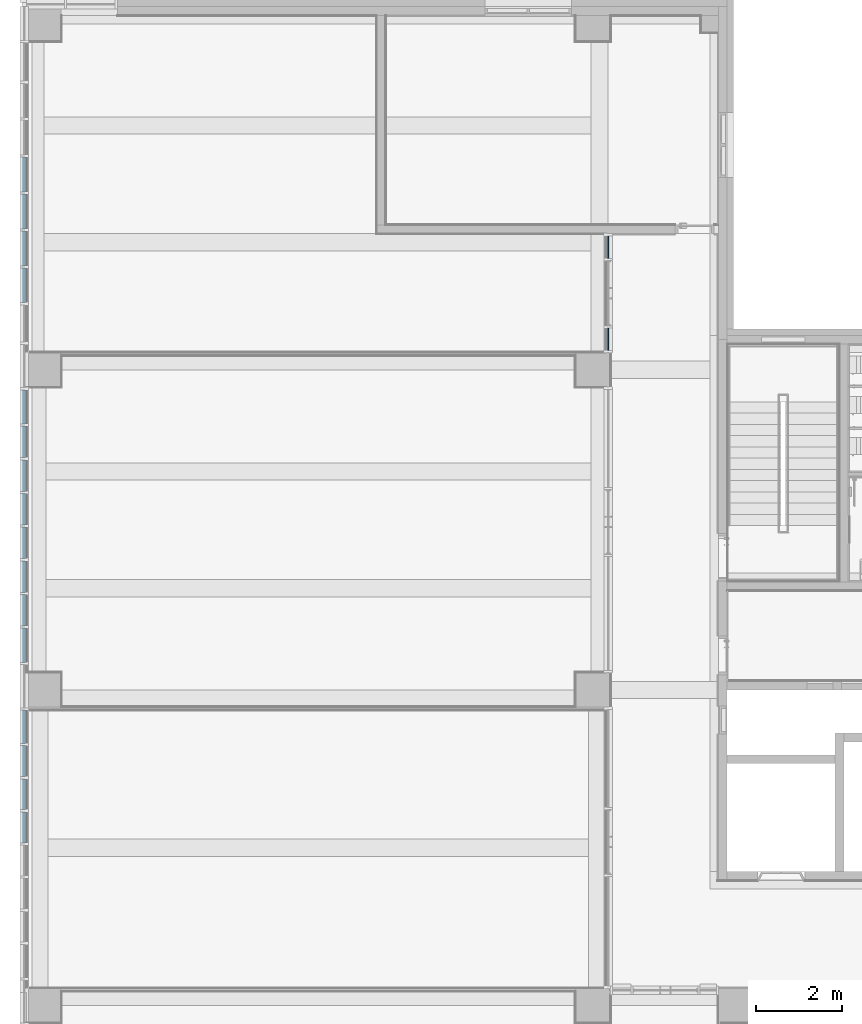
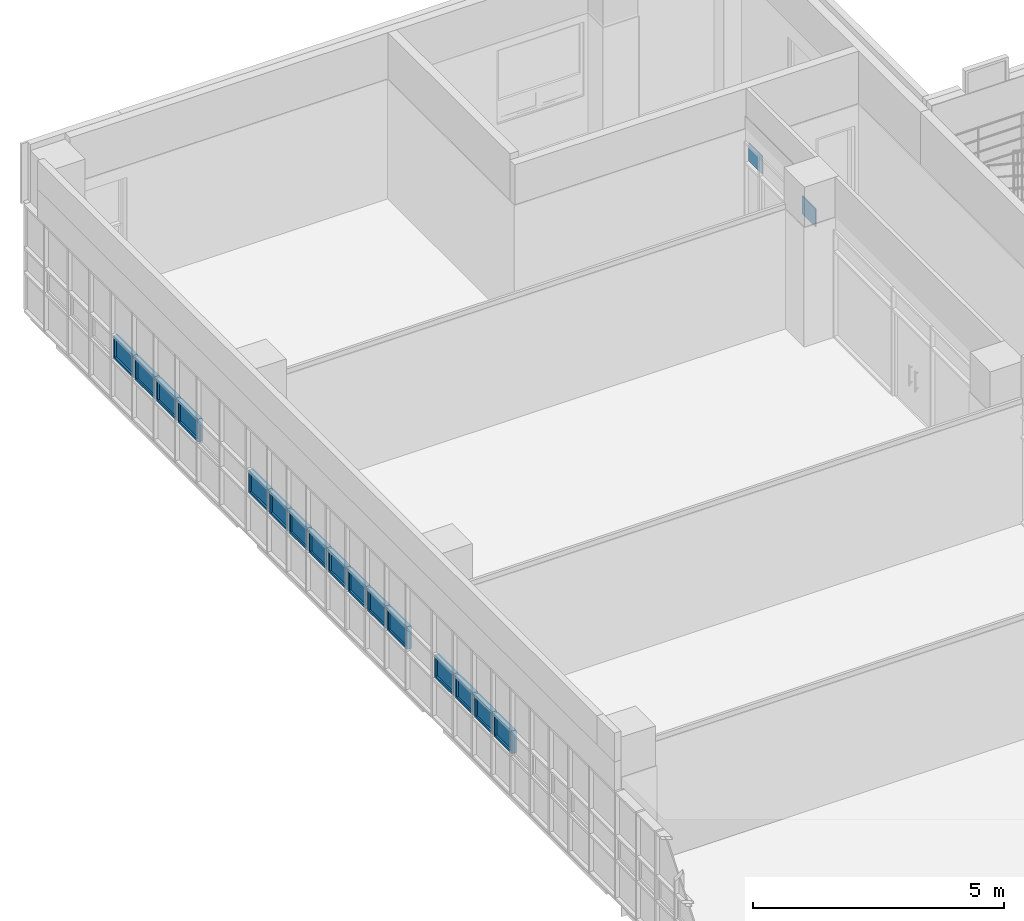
# One storey, part 40 of 76: 18 plates, 2 elements without a shape of their own.
"""IFC2X3 building model written with IfcOpenShell, lengths in millimetres."""

import ifcopenshell
import ifcopenshell.guid

model = None  # the IFC model being written
_history = None  # IfcOwnerHistory: only IFC2X3 demands one
_inside = {}  # id of a spatial element -> (the spatial element, [elements in it])
_under = {}  # id of a project, library or spatial element -> (it, [spatial elements below it])
_declared = {}  # id of a project -> (the project, [libraries it declares])
_typed = {}  # id of a type object -> (the type object, [elements of that type])
_made_of = {}  # id of a material, layer set ... -> (it, [elements and type objects made of it])


def new_model(schema):
    """Start an empty IFC model of exactly this schema.

    Asked for "IFC4X3", IfcOpenShell would pick the latest addendum, in which some entities
    have other attributes; the version numbers below select the first issue.
    IFC2X3 requires an IfcOwnerHistory on every rooted entity: one is made here for all.
    """
    global model, _history
    if schema == "IFC4X3":
        model = ifcopenshell.file(schema_version=(4, 3, 0, 0))
    else:
        model = ifcopenshell.file(schema=schema)
    _inside.clear()
    _under.clear()
    _declared.clear()
    _typed.clear()
    _made_of.clear()
    _history = None
    if model.schema == "IFC2X3":
        org = make("IfcOrganization", Name="unknown")
        user = make(
            "IfcPersonAndOrganization",
            ThePerson=make("IfcPerson", FamilyName="unknown"),
            TheOrganization=org,
        )
        app = make(
            "IfcApplication",
            ApplicationDeveloper=org,
            Version="unknown",
            ApplicationFullName="unknown",
            ApplicationIdentifier="unknown",
        )
        _history = make(
            "IfcOwnerHistory",
            OwningUser=user,
            OwningApplication=app,
            ChangeAction="ADDED",
            CreationDate=0,
        )
    return model


def make(cls, **values):
    """One entity of the class cls with the attributes given. An attribute that is None is left unset."""
    return model.create_entity(
        cls, **{name: value for name, value in values.items() if value is not None}
    )


def entity(cls, *values):
    """Any entity or typed value of the class cls, its attributes in the order of the schema. None: left unset."""
    e = model.create_entity(cls)
    for i, value in enumerate(values):
        if value is not None:
            e[i] = value
    return e


def rooted(cls, **values):
    """An entity with a GlobalId (a new one), such as an element, a storey or a relation."""
    return make(cls, GlobalId=ifcopenshell.guid.new(), OwnerHistory=_history, **values)


def si_unit(unit_type, name, prefix=None):
    """IfcSIUnit, for example si_unit("LENGTHUNIT", "METRE", prefix="MILLI")."""
    return make("IfcSIUnit", UnitType=unit_type, Prefix=prefix, Name=name)


def converted_unit(unit_type, name, factor, base, dimensions=None, offset=None):
    """IfcConversionBasedUnit, such as the inch: factor (a typed value) times the base unit."""
    return make(
        "IfcConversionBasedUnit"
        if offset is None
        else "IfcConversionBasedUnitWithOffset",
        ConversionOffset=offset,
        Dimensions=None
        if dimensions is None
        else entity("IfcDimensionalExponents", *dimensions),
        UnitType=unit_type,
        Name=name,
        ConversionFactor=make(
            "IfcMeasureWithUnit", ValueComponent=factor, UnitComponent=base
        ),
    )


def derived_unit(unit_type, elements):
    """IfcDerivedUnit: a product of units, each with its exponent."""
    return make(
        "IfcDerivedUnit",
        Elements=[
            make("IfcDerivedUnitElement", Unit=unit, Exponent=power)
            for unit, power in elements
        ],
        UnitType=unit_type,
    )


def assignment(units):
    """IfcUnitAssignment: the units of a project."""
    return None if units is None else make("IfcUnitAssignment", Units=units)


def point(xyz):
    """IfcCartesianPoint."""
    return None if xyz is None else make("IfcCartesianPoint", Coordinates=xyz)


def direction(xyz):
    """IfcDirection."""
    return None if xyz is None else make("IfcDirection", DirectionRatios=xyz)


def frame(location, z_axis=None, x_axis=None):
    """IfcAxis2Placement3D, a coordinate frame: its origin and axes. An axis left out is left unset."""
    return make(
        "IfcAxis2Placement3D",
        Location=point(location),
        Axis=direction(z_axis),
        RefDirection=direction(x_axis),
    )


def frame_2d(location, x_axis=None):
    """IfcAxis2Placement2D, a coordinate frame in the plane: its origin and x axis."""
    return make(
        "IfcAxis2Placement2D", Location=point(location), RefDirection=direction(x_axis)
    )


def origin():
    """The frame at (0, 0, 0) with its axes left unset."""
    return frame((0.0, 0.0, 0.0))


def origin_2d_with_axis():
    """The frame at (0, 0) in the plane with the x axis (1, 0) written out."""
    return frame_2d((0.0, 0.0), x_axis=(1.0, 0.0))


def place(relative_to, where):
    """IfcLocalPlacement: puts the frame where relative to a parent placement (None: the world)."""
    return make(
        "IfcLocalPlacement", PlacementRelTo=relative_to, RelativePlacement=where
    )


def context(
    kind, dimensions, precision=None, world=None, true_north=None, identifier=None
):
    """IfcGeometricRepresentationContext, for example the 3D "Model" context."""
    return make(
        "IfcGeometricRepresentationContext",
        ContextIdentifier=identifier,
        ContextType=kind,
        CoordinateSpaceDimension=dimensions,
        Precision=precision,
        WorldCoordinateSystem=world,
        TrueNorth=true_north,
    )


def subcontext(parent, identifier, kind, view, scale=None):
    """IfcGeometricRepresentationSubContext, for example "Body" below "Model"."""
    return make(
        "IfcGeometricRepresentationSubContext",
        ContextIdentifier=identifier,
        ContextType=kind,
        ParentContext=parent,
        TargetScale=scale,
        TargetView=view,
    )


def project(units=None, contexts=None):
    """IfcProject with its units and contexts."""
    return rooted(
        "IfcProject",
        Name="project",
        RepresentationContexts=contexts,
        UnitsInContext=assignment(units),
    )


def spatial(cls, under=None, at=None, **own):
    """A site, building, storey or space (cls), placed at a placement, below another one or the project."""
    s = rooted(cls, ObjectPlacement=at, **own)
    if under is not None:
        _under.setdefault(under.id(), (under, []))[1].append(s)
    return s


def polyline(points):
    """IfcPolyline through the points."""
    return make("IfcPolyline", Points=[point(p) for p in points])


def profile(cls, at=None, kind="AREA", **sizes):
    """A parametric profile (cls). Its sizes go by their IFC names, for example OverallWidth=200.0."""
    return make(cls, ProfileType=kind, Position=at, **sizes)


def rectangle(**sizes):
    """IfcRectangleProfileDef."""
    return profile("IfcRectangleProfileDef", **sizes)


def outline(outer, holes=None, kind="AREA"):
    """IfcArbitraryClosedProfileDef: a profile drawn as a closed curve; with holes, ...WithVoids."""
    if holes is None:
        return make("IfcArbitraryClosedProfileDef", ProfileType=kind, OuterCurve=outer)
    return make(
        "IfcArbitraryProfileDefWithVoids",
        ProfileType=kind,
        OuterCurve=outer,
        InnerCurves=holes,
    )


def extrude(swept, where, along, depth):
    """IfcExtrudedAreaSolid: the profile swept, set in the frame where, extruded along a direction by depth."""
    return make(
        "IfcExtrudedAreaSolid",
        SweptArea=swept,
        Position=where,
        ExtrudedDirection=direction(along),
        Depth=depth,
    )


def shape(context_of_items, identifier, shape_type, items):
    """IfcShapeRepresentation: the items that make up one representation, for example the "Body"."""
    return make(
        "IfcShapeRepresentation",
        ContextOfItems=context_of_items,
        RepresentationIdentifier=identifier,
        RepresentationType=shape_type,
        Items=items,
    )


def source(mapping_origin, context_of_items, identifier, shape_type, items):
    """IfcRepresentationMap: a shape defined once, which mapped items show again and again."""
    return make(
        "IfcRepresentationMap",
        MappingOrigin=mapping_origin,
        MappedRepresentation=shape(context_of_items, identifier, shape_type, items),
    )


def transform(
    local_origin,
    x_axis=None,
    y_axis=None,
    z_axis=None,
    scale=None,
    scale2=None,
    scale3=None,
    uniform=True,
):
    """IfcCartesianTransformationOperator3D, or its non-uniform kind. x_axis, y_axis, z_axis: its Axis1, 2, 3."""
    if uniform:
        return make(
            "IfcCartesianTransformationOperator3D",
            Axis1=direction(x_axis),
            Axis2=direction(y_axis),
            LocalOrigin=point(local_origin),
            Scale=scale,
            Axis3=direction(z_axis),
        )
    return make(
        "IfcCartesianTransformationOperator3DnonUniform",
        Axis1=direction(x_axis),
        Axis2=direction(y_axis),
        LocalOrigin=point(local_origin),
        Scale=scale,
        Axis3=direction(z_axis),
        Scale2=scale2,
        Scale3=scale3,
    )


def mapped(mapping_source, mapping_target):
    """IfcMappedItem: shows the shape of a source again, moved by a transform."""
    return make(
        "IfcMappedItem", MappingSource=mapping_source, MappingTarget=mapping_target
    )


def material(Name=None, Category=None):
    """IfcMaterial."""
    return make("IfcMaterial", Name=Name, Category=Category)


def material_list(materials):
    """IfcMaterialList."""
    return make("IfcMaterialList", Materials=materials)


def made_of(thing, what):
    """Note that an element or type object is made of a material, layer set ...; save() writes the relation."""
    if what is not None:
        _made_of.setdefault(what.id(), (what, []))[1].append(thing)
    return thing


def type_object(cls, material=None, **own):
    """A type object (cls), such as IfcWallType, which elements share."""
    return made_of(rooted(cls, **own), material)


def type_shapes(of_type, sources):
    """Give a type object the sources (RepresentationMaps) that its elements show as mapped items."""
    of_type.RepresentationMaps = sources


def element(
    cls,
    number,
    at=None,
    inside=None,
    cuts=None,
    type_object=None,
    material=None,
    context=None,
    identifier="Body",
    shape_type=None,
    held_by="IfcProductDefinitionShape",
    body=None,
    shapes=None,
    **own,
):
    """One element of the class cls, such as IfcWall. Its Tag is "e" and its number.

    at: its placement. inside: the storey or other place that contains it. cuts: it is an
    opening in that element (IfcRelVoidsElement). A single representation is given by context,
    identifier, shape_type and body (its items); several are given by shapes. held_by: the class
    of the entity that holds the representations. save() writes the other relations.
    """
    e = rooted(cls, Tag="e%d" % number, ObjectPlacement=at, **own)
    if body is not None:
        shapes = [shape(context, identifier, shape_type, body)]
    if shapes is not None:
        e.Representation = make(held_by, Representations=shapes)
    if inside is not None:
        _inside.setdefault(inside.id(), (inside, []))[1].append(e)
    if cuts is not None:
        rooted(
            "IfcRelVoidsElement", RelatingBuildingElement=cuts, RelatedOpeningElement=e
        )
    if type_object is not None:
        _typed.setdefault(type_object.id(), (type_object, []))[1].append(e)
    return made_of(e, material)


def aggregate(whole, parts):
    """IfcRelAggregates: a whole, such as a stair, and the parts it consists of."""
    return rooted("IfcRelAggregates", RelatingObject=whole, RelatedObjects=parts)


def save(model, path):
    """Write the relations noted so far, then the file.

    IfcRelAggregates (storeys below a building ...), IfcRelContainedInSpatialStructure (elements
    in a storey), IfcRelDefinesByType, IfcRelAssociatesMaterial and IfcRelDeclares: one each for
    every whole, place, type object, material and project.
    """
    for whole, parts in _under.values():
        aggregate(whole, parts)
    for where, things in _inside.values():
        rooted(
            "IfcRelContainedInSpatialStructure",
            RelatedElements=things,
            RelatingStructure=where,
        )
    for kind, things in _typed.values():
        rooted("IfcRelDefinesByType", RelatedObjects=things, RelatingType=kind)
    for what, things in _made_of.values():
        rooted("IfcRelAssociatesMaterial", RelatedObjects=things, RelatingMaterial=what)
    for by, libraries in _declared.values():
        rooted("IfcRelDeclares", RelatingContext=by, RelatedDefinitions=libraries)
    model.write(path)


model = new_model("IFC2X3")

# Units and contexts
model_context = context("Model", 3, precision=0.01, world=origin(), true_north=direction((6.123031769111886e-17, 1.0)))
body_context = subcontext(model_context, "Body", "Model", "MODEL_VIEW")
ifc_project = project(units=[si_unit("LENGTHUNIT", "METRE", prefix="MILLI"), si_unit("AREAUNIT", "SQUARE_METRE"), si_unit("VOLUMEUNIT", "CUBIC_METRE"), converted_unit("PLANEANGLEUNIT", "DEGREE", entity("IfcRatioMeasure", 0.017453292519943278), si_unit("PLANEANGLEUNIT", "RADIAN"), dimensions=[0, 0, 0, 0, 0, 0, 0]), si_unit("MASSUNIT", "GRAM", prefix="KILO"), derived_unit("MASSDENSITYUNIT", [(si_unit("MASSUNIT", "GRAM", prefix="KILO"), 1), (si_unit("LENGTHUNIT", "METRE"), -3)]), derived_unit("MOMENTOFINERTIAUNIT", [(si_unit("LENGTHUNIT", "METRE"), 4)]), si_unit("TIMEUNIT", "SECOND"), si_unit("FREQUENCYUNIT", "HERTZ"), si_unit("THERMODYNAMICTEMPERATUREUNIT", "DEGREE_CELSIUS"), derived_unit("THERMALTRANSMITTANCEUNIT", [(si_unit("MASSUNIT", "GRAM", prefix="KILO"), 1), (si_unit("THERMODYNAMICTEMPERATUREUNIT", "KELVIN"), -1), (si_unit("TIMEUNIT", "SECOND"), -3)]), derived_unit("VOLUMETRICFLOWRATEUNIT", [(si_unit("LENGTHUNIT", "METRE"), 3), (si_unit("TIMEUNIT", "SECOND"), -1)]), derived_unit("MASSFLOWRATEUNIT", [(si_unit("MASSUNIT", "GRAM", prefix="KILO"), 1), (si_unit("TIMEUNIT", "SECOND"), -1)]), derived_unit("ROTATIONALFREQUENCYUNIT", [(si_unit("TIMEUNIT", "SECOND"), -1)]), si_unit("ELECTRICCURRENTUNIT", "AMPERE"), si_unit("ELECTRICVOLTAGEUNIT", "VOLT"), si_unit("POWERUNIT", "WATT"), si_unit("FORCEUNIT", "NEWTON", prefix="KILO"), si_unit("ILLUMINANCEUNIT", "LUX"), si_unit("LUMINOUSFLUXUNIT", "LUMEN"), si_unit("LUMINOUSINTENSITYUNIT", "CANDELA"), derived_unit("USERDEFINED", [(si_unit("MASSUNIT", "GRAM", prefix="KILO"), -1), (si_unit("LENGTHUNIT", "METRE"), -2), (si_unit("TIMEUNIT", "SECOND"), 3), (si_unit("LUMINOUSFLUXUNIT", "LUMEN"), 1)]), derived_unit("SOUNDPOWERUNIT", [(si_unit("MASSUNIT", "GRAM", prefix="KILO"), 1), (si_unit("LENGTHUNIT", "METRE"), 2), (si_unit("TIMEUNIT", "SECOND"), -3)]), derived_unit("SOUNDPRESSUREUNIT", [(si_unit("MASSUNIT", "GRAM", prefix="KILO"), 1), (si_unit("LENGTHUNIT", "METRE"), -1), (si_unit("TIMEUNIT", "SECOND"), -2)]), derived_unit("LINEARVELOCITYUNIT", [(si_unit("LENGTHUNIT", "METRE"), 1), (si_unit("TIMEUNIT", "SECOND"), -1)]), si_unit("PRESSUREUNIT", "PASCAL"), derived_unit("USERDEFINED", [(si_unit("LENGTHUNIT", "METRE"), -2), (si_unit("MASSUNIT", "GRAM", prefix="KILO"), 1), (si_unit("TIMEUNIT", "SECOND"), -2)]), derived_unit("LINEARFORCEUNIT", [(si_unit("MASSUNIT", "GRAM", prefix="KILO"), 1), (si_unit("LENGTHUNIT", "METRE"), 1), (si_unit("TIMEUNIT", "SECOND"), -2), (si_unit("LENGTHUNIT", "METRE"), -1)]), derived_unit("PLANARFORCEUNIT", [(si_unit("MASSUNIT", "GRAM", prefix="KILO"), 1), (si_unit("LENGTHUNIT", "METRE"), 1), (si_unit("TIMEUNIT", "SECOND"), -2), (si_unit("LENGTHUNIT", "METRE"), -2)])], contexts=[model_context])

# Site, building, storey
site_placement = place(None, frame((-14167.972527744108, -657.2125860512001, 0.0)))
site = spatial("IfcSite", under=ifc_project, at=site_placement, Name="Default", CompositionType="ELEMENT")
building_placement = place(site_placement, origin())
building = spatial("IfcBuilding", under=site, at=building_placement, Name="Sample Building", CompositionType="ELEMENT")
storey_placement = place(building_placement, frame((0.0, 0.0, 9300.0)))
storey = spatial("IfcBuildingStorey", under=building, at=storey_placement, Name="지상 3층", CompositionType="ELEMENT", Elevation=9300.000000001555)

# Curtain wall, plates
curtain_wall_type = type_object("IfcCurtainWallType", Name="커튼월:CW112-스테인리스 스틸 커튼월", PredefinedType="NOTDEFINED")
curtain_wall_1_placement = place(storey_placement, frame((0.0, 0.0, -9300.0)))
curtain_wall_1 = element("IfcCurtainWall", 1, at=curtain_wall_1_placement, inside=storey, type_object=curtain_wall_type, Name="커튼월:CW112-스테인리스 스틸 커튼월", ObjectType="커튼월:CW112-스테인리스 스틸 커튼월")
ifc_material_1 = material(Name="KBIMS-로이유리(코팅)")
plate_type_1 = type_object("IfcPlateType", Name="CW300-THK24.Low-e coating glass:CW300-THK24.Low-e coating glass", PredefinedType="CURTAIN_PANEL", material=ifc_material_1)
shared_shape_1 = source(origin(), body_context, "Body", "SweptSolid", [
    extrude(rectangle(XDim=524.9999999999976, YDim=24.000000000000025, at=origin_2d_with_axis()), frame((0.0, 0.0, 0.0), z_axis=(0.0, 0.0, 1.0), x_axis=(-1.0, 0.0, 0.0)), (0.0, 0.0, 1.0), 445.00000000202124),
])
type_shapes(plate_type_1, [shared_shape_1])
plate_1_placement = place(curtain_wall_1_placement, frame((27522.955105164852, 30194.712275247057, 11505.0), z_axis=(0.0, 0.0, 1.0), x_axis=(0.0, -1.0, 0.0)))
plate_1 = element("IfcPlate", 2, at=plate_1_placement, type_object=plate_type_1, material=ifc_material_1, Name="CW300-THK24.Low-e coating glass:CW300-THK24.Low-e coating glass", ObjectType="CW300-THK24.Low-e coating glass:CW300-THK24.Low-e coating glass", context=body_context, shape_type="MappedRepresentation", body=[
    mapped(shared_shape_1, transform((0.0, 0.0, 0.0), scale=1.0)),
])
plate_type_2 = type_object("IfcPlateType", Name="CW300-THK24.Low-e coating glass:CW300-THK24.Low-e coating glass", PredefinedType="CURTAIN_PANEL", material=ifc_material_1)
shared_shape_2 = source(origin(), body_context, "Body", "SweptSolid", [
    extrude(rectangle(XDim=520.0002780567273, YDim=24.000000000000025, at=origin_2d_with_axis()), frame((0.0, 0.0, 0.0), z_axis=(0.0, 0.0, 1.0), x_axis=(-1.0, 0.0, 0.0)), (0.0, 0.0, 1.0), 445.00000000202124),
])
type_shapes(plate_type_2, [shared_shape_2])
plate_2_placement = place(curtain_wall_1_placement, frame((27522.955105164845, 28067.212447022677, 11505.0), z_axis=(0.0, 0.0, 1.0), x_axis=(0.0, -1.0, 0.0)))
plate_2 = element("IfcPlate", 3, at=plate_2_placement, type_object=plate_type_2, material=ifc_material_1, Name="CW300-THK24.Low-e coating glass:CW300-THK24.Low-e coating glass", ObjectType="CW300-THK24.Low-e coating glass:CW300-THK24.Low-e coating glass", context=body_context, shape_type="MappedRepresentation", body=[
    mapped(shared_shape_2, transform((0.0, 0.0, 0.0), scale=1.0)),
])
aggregate(curtain_wall_1, [plate_1, plate_2])

curtain_wall_2_placement = place(storey_placement, frame((0.0, 0.0, -9300.0)))
curtain_wall_2 = element("IfcCurtainWall", 4, at=curtain_wall_2_placement, inside=storey, type_object=curtain_wall_type, Name="커튼월:CW112-스테인리스 스틸 커튼월", ObjectType="커튼월:CW112-스테인리스 스틸 커튼월")
ifc_material_2 = material(Name="KBIMS-유리")
ifc_material_3 = material(Name="KBIMS-알루미늄")
ifc_material_list_1 = material_list([ifc_material_2, ifc_material_3])
ifc_material_list_2 = material_list([ifc_material_2, ifc_material_3])
plate_type_3 = type_object("IfcPlateType", Name="CW410-프로젝트 창:CW410-프로젝트 창 (하부개폐)", PredefinedType="CURTAIN_PANEL", material=ifc_material_list_2)
shared_shape_3 = source(origin(), body_context, "Body", "SweptSolid", [
    extrude(rectangle(XDim=704.0000000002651, YDim=23.999999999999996, at=origin_2d_with_axis()), frame((0.0, -0.04999999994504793, 50.0), z_axis=(0.0, 0.0, 1.0), x_axis=(-1.0, 0.0, 0.0)), (0.0, 0.0, 1.0), 450.0000000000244),
    extrude(outline(polyline([(-402.0, -275.0), (402.0, -275.0), (402.0, 275.0), (-402.0, 275.0), (-402.0, -275.0)]), holes=[polyline([(-352.0, -225.0), (-352.0, 225.0), (352.0, 225.0), (352.0, -225.0), (-352.0, -225.0)])]), frame((0.0, -50.04999999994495, 275.0), z_axis=(0.0, 1.0, 0.0), x_axis=(1.0, 0.0, 0.0)), (0.0, 0.0, 1.0), 99.99999999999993),
])
type_shapes(plate_type_3, [shared_shape_3])
plate_3_placement = place(curtain_wall_2_placement, frame((14018.587904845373, 31874.81770709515, 10355.0), z_axis=(0.0, 0.0, 1.0), x_axis=(0.0, -1.0, 0.0)))
plate_3 = element("IfcPlate", 5, at=plate_3_placement, type_object=plate_type_3, material=ifc_material_list_1, Name="CW410-프로젝트 창:CW410-프로젝트 창 (하부개폐)", ObjectType="CW410-프로젝트 창:CW410-프로젝트 창 (하부개폐)", context=body_context, shape_type="MappedRepresentation", body=[
    mapped(shared_shape_3, transform((0.0, 0.0, 0.0), scale=1.0)),
])
ifc_material_list_3 = material_list([ifc_material_2, ifc_material_3])
plate_4_placement = place(curtain_wall_2_placement, frame((14018.587904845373, 31020.817707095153, 10355.0), z_axis=(0.0, 0.0, 1.0), x_axis=(0.0, -1.0, 0.0)))
plate_4 = element("IfcPlate", 6, at=plate_4_placement, type_object=plate_type_3, material=ifc_material_list_3, Name="CW410-프로젝트 창:CW410-프로젝트 창 (하부개폐)", ObjectType="CW410-프로젝트 창:CW410-프로젝트 창 (하부개폐)", context=body_context, shape_type="MappedRepresentation", body=[
    mapped(shared_shape_3, transform((0.0, 0.0, 0.0), scale=1.0)),
])
ifc_material_list_4 = material_list([ifc_material_2, ifc_material_3])
plate_5_placement = place(curtain_wall_2_placement, frame((14018.587904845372, 30166.81770709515, 10355.0), z_axis=(0.0, 0.0, 1.0), x_axis=(0.0, -1.0, 0.0)))
plate_5 = element("IfcPlate", 7, at=plate_5_placement, type_object=plate_type_3, material=ifc_material_list_4, Name="CW410-프로젝트 창:CW410-프로젝트 창 (하부개폐)", ObjectType="CW410-프로젝트 창:CW410-프로젝트 창 (하부개폐)", context=body_context, shape_type="MappedRepresentation", body=[
    mapped(shared_shape_3, transform((0.0, 0.0, 0.0), scale=1.0)),
])
ifc_material_list_5 = material_list([ifc_material_2, ifc_material_3])
plate_6_placement = place(curtain_wall_2_placement, frame((14018.587904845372, 29312.817707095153, 10355.0), z_axis=(0.0, 0.0, 1.0), x_axis=(0.0, -1.0, 0.0)))
plate_6 = element("IfcPlate", 8, at=plate_6_placement, type_object=plate_type_3, material=ifc_material_list_5, Name="CW410-프로젝트 창:CW410-프로젝트 창 (하부개폐)", ObjectType="CW410-프로젝트 창:CW410-프로젝트 창 (하부개폐)", context=body_context, shape_type="MappedRepresentation", body=[
    mapped(shared_shape_3, transform((0.0, 0.0, 0.0), scale=1.0)),
])
ifc_material_list_6 = material_list([ifc_material_2, ifc_material_3])
ifc_material_list_7 = material_list([ifc_material_2, ifc_material_3])
plate_type_4 = type_object("IfcPlateType", Name="CW410-프로젝트 창:CW410-프로젝트 창 (하부개폐)", PredefinedType="CURTAIN_PANEL", material=ifc_material_list_7)
shared_shape_4 = source(origin(), body_context, "Body", "SweptSolid", [
    extrude(rectangle(XDim=689.0000000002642, YDim=23.999999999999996, at=origin_2d_with_axis()), frame((0.0, -0.04999999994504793, 50.0), z_axis=(0.0, 0.0, 1.0), x_axis=(-1.0, 0.0, 0.0)), (0.0, 0.0, 1.0), 450.0000000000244),
    extrude(outline(polyline([(-394.5000000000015, -275.0), (394.5000000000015, -275.0), (394.5000000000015, 275.0), (-394.5000000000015, 275.0), (-394.5000000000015, -275.0)]), holes=[polyline([(-344.5000000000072, -225.0), (-344.5000000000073, 225.0), (344.5000000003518, 225.0), (344.5000000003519, -225.0), (-344.5000000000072, -225.0)])]), frame((0.0, -50.04999999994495, 275.0), z_axis=(0.0, 1.0, 0.0), x_axis=(1.0, 0.0, 0.0)), (0.0, 0.0, 1.0), 99.99999999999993),
])
type_shapes(plate_type_4, [shared_shape_4])
plate_7_placement = place(curtain_wall_2_placement, frame((14018.587904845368, 26502.31770709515, 10355.0), z_axis=(0.0, 0.0, 1.0), x_axis=(0.0, -1.0, 0.0)))
plate_7 = element("IfcPlate", 9, at=plate_7_placement, type_object=plate_type_4, material=ifc_material_list_6, Name="CW410-프로젝트 창:CW410-프로젝트 창 (하부개폐)", ObjectType="CW410-프로젝트 창:CW410-프로젝트 창 (하부개폐)", context=body_context, shape_type="MappedRepresentation", body=[
    mapped(shared_shape_4, transform((0.0, 0.0, 0.0), scale=1.0)),
])
ifc_material_list_8 = material_list([ifc_material_2, ifc_material_3])
plate_8_placement = place(curtain_wall_2_placement, frame((14018.587904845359, 20989.317707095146, 10355.0), z_axis=(0.0, 0.0, 1.0), x_axis=(0.0, -1.0, 0.0)))
plate_8 = element("IfcPlate", 10, at=plate_8_placement, type_object=plate_type_4, material=ifc_material_list_8, Name="CW410-프로젝트 창:CW410-프로젝트 창 (하부개폐)", ObjectType="CW410-프로젝트 창:CW410-프로젝트 창 (하부개폐)", context=body_context, shape_type="MappedRepresentation", body=[
    mapped(shared_shape_4, transform((0.0, 0.0, 0.0), scale=1.0)),
])
ifc_material_list_9 = material_list([ifc_material_2, ifc_material_3])
ifc_material_list_10 = material_list([ifc_material_2, ifc_material_3])
plate_type_5 = type_object("IfcPlateType", Name="CW410-프로젝트 창:CW410-프로젝트 창 (하부개폐)", PredefinedType="CURTAIN_PANEL", material=ifc_material_list_10)
shared_shape_5 = source(origin(), body_context, "Body", "SweptSolid", [
    extrude(rectangle(XDim=629.0000000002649, YDim=23.999999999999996, at=origin_2d_with_axis()), frame((0.0, -0.04999999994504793, 50.0), z_axis=(0.0, 0.0, 1.0), x_axis=(-1.0, 0.0, 0.0)), (0.0, 0.0, 1.0), 450.0000000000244),
    extrude(outline(polyline([(-364.5000000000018, -275.0), (364.5000000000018, -275.0), (364.5000000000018, 275.0), (-364.5000000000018, 275.0), (-364.5000000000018, -275.0)]), holes=[polyline([(-314.50000000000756, -225.0), (-314.5000000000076, 225.0), (314.5000000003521, 225.0), (314.50000000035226, -225.0), (-314.50000000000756, -225.0)])]), frame((0.0, -50.04999999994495, 275.0), z_axis=(0.0, 1.0, 0.0), x_axis=(1.0, 0.0, 0.0)), (0.0, 0.0, 1.0), 99.99999999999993),
])
type_shapes(plate_type_5, [shared_shape_5])
plate_9_placement = place(curtain_wall_2_placement, frame((14018.587904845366, 25693.317707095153, 10355.0), z_axis=(0.0, 0.0, 1.0), x_axis=(0.0, -1.0, 0.0)))
plate_9 = element("IfcPlate", 11, at=plate_9_placement, type_object=plate_type_5, material=ifc_material_list_9, Name="CW410-프로젝트 창:CW410-프로젝트 창 (하부개폐)", ObjectType="CW410-프로젝트 창:CW410-프로젝트 창 (하부개폐)", context=body_context, shape_type="MappedRepresentation", body=[
    mapped(shared_shape_5, transform((0.0, 0.0, 0.0), scale=1.0)),
])
ifc_material_list_11 = material_list([ifc_material_2, ifc_material_3])
plate_10_placement = place(curtain_wall_2_placement, frame((14018.587904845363, 24914.317707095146, 10355.0), z_axis=(0.0, 0.0, 1.0), x_axis=(0.0, -1.0, 0.0)))
plate_10 = element("IfcPlate", 12, at=plate_10_placement, type_object=plate_type_5, material=ifc_material_list_11, Name="CW410-프로젝트 창:CW410-프로젝트 창 (하부개폐)", ObjectType="CW410-프로젝트 창:CW410-프로젝트 창 (하부개폐)", context=body_context, shape_type="MappedRepresentation", body=[
    mapped(shared_shape_5, transform((0.0, 0.0, 0.0), scale=1.0)),
])
ifc_material_list_12 = material_list([ifc_material_2, ifc_material_3])
plate_11_placement = place(curtain_wall_2_placement, frame((14018.587904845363, 24135.31770709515, 10355.0), z_axis=(0.0, 0.0, 1.0), x_axis=(0.0, -1.0, 0.0)))
plate_11 = element("IfcPlate", 13, at=plate_11_placement, type_object=plate_type_5, material=ifc_material_list_12, Name="CW410-프로젝트 창:CW410-프로젝트 창 (하부개폐)", ObjectType="CW410-프로젝트 창:CW410-프로젝트 창 (하부개폐)", context=body_context, shape_type="MappedRepresentation", body=[
    mapped(shared_shape_5, transform((0.0, 0.0, 0.0), scale=1.0)),
])
ifc_material_list_13 = material_list([ifc_material_2, ifc_material_3])
plate_12_placement = place(curtain_wall_2_placement, frame((14018.58790484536, 23356.317707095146, 10355.0), z_axis=(0.0, 0.0, 1.0), x_axis=(0.0, -1.0, 0.0)))
plate_12 = element("IfcPlate", 14, at=plate_12_placement, type_object=plate_type_5, material=ifc_material_list_13, Name="CW410-프로젝트 창:CW410-프로젝트 창 (하부개폐)", ObjectType="CW410-프로젝트 창:CW410-프로젝트 창 (하부개폐)", context=body_context, shape_type="MappedRepresentation", body=[
    mapped(shared_shape_5, transform((0.0, 0.0, 0.0), scale=1.0)),
])
ifc_material_list_14 = material_list([ifc_material_2, ifc_material_3])
plate_13_placement = place(curtain_wall_2_placement, frame((14018.58790484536, 22577.31770709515, 10355.0), z_axis=(0.0, 0.0, 1.0), x_axis=(0.0, -1.0, 0.0)))
plate_13 = element("IfcPlate", 15, at=plate_13_placement, type_object=plate_type_5, material=ifc_material_list_14, Name="CW410-프로젝트 창:CW410-프로젝트 창 (하부개폐)", ObjectType="CW410-프로젝트 창:CW410-프로젝트 창 (하부개폐)", context=body_context, shape_type="MappedRepresentation", body=[
    mapped(shared_shape_5, transform((0.0, 0.0, 0.0), scale=1.0)),
])
ifc_material_list_15 = material_list([ifc_material_2, ifc_material_3])
plate_14_placement = place(curtain_wall_2_placement, frame((14018.587904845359, 21798.317707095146, 10355.0), z_axis=(0.0, 0.0, 1.0), x_axis=(0.0, -1.0, 0.0)))
plate_14 = element("IfcPlate", 16, at=plate_14_placement, type_object=plate_type_5, material=ifc_material_list_15, Name="CW410-프로젝트 창:CW410-프로젝트 창 (하부개폐)", ObjectType="CW410-프로젝트 창:CW410-프로젝트 창 (하부개폐)", context=body_context, shape_type="MappedRepresentation", body=[
    mapped(shared_shape_5, transform((0.0, 0.0, 0.0), scale=1.0)),
])
ifc_material_list_16 = material_list([ifc_material_2, ifc_material_3])
ifc_material_list_17 = material_list([ifc_material_2, ifc_material_3])
plate_type_6 = type_object("IfcPlateType", Name="CW410-프로젝트 창:CW410-프로젝트 창 (하부개폐)", PredefinedType="CURTAIN_PANEL", material=ifc_material_list_17)
shared_shape_6 = source(origin(), body_context, "Body", "SweptSolid", [
    extrude(rectangle(XDim=676.0000000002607, YDim=23.999999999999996, at=origin_2d_with_axis()), frame((0.0, -0.04999999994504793, 50.0), z_axis=(0.0, 0.0, 1.0), x_axis=(-1.0, 0.0, 0.0)), (0.0, 0.0, 1.0), 450.0000000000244),
    extrude(outline(polyline([(-388.0, -275.0), (388.0, -275.0), (388.0, 275.0), (-388.0, 275.0), (-388.0, -275.0)]), holes=[polyline([(-338.0, -225.0), (-338.0, 225.0), (338.0, 225.0), (338.0, -225.0), (-338.0, -225.0)])]), frame((0.0, -50.04999999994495, 275.0), z_axis=(0.0, 1.0, 0.0), x_axis=(1.0, 0.0, 0.0)), (0.0, 0.0, 1.0), 99.99999999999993),
])
type_shapes(plate_type_6, [shared_shape_6])
plate_15_placement = place(curtain_wall_2_placement, frame((14018.587904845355, 19106.81770709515, 10355.0), z_axis=(0.0, 0.0, 1.0), x_axis=(0.0, -1.0, 0.0)))
plate_15 = element("IfcPlate", 17, at=plate_15_placement, type_object=plate_type_6, material=ifc_material_list_16, Name="CW410-프로젝트 창:CW410-프로젝트 창 (하부개폐)", ObjectType="CW410-프로젝트 창:CW410-프로젝트 창 (하부개폐)", context=body_context, shape_type="MappedRepresentation", body=[
    mapped(shared_shape_6, transform((0.0, 0.0, 0.0), scale=1.0)),
])
ifc_material_list_18 = material_list([ifc_material_2, ifc_material_3])
ifc_material_list_19 = material_list([ifc_material_2, ifc_material_3])
plate_type_7 = type_object("IfcPlateType", Name="CW410-프로젝트 창:CW410-프로젝트 창 (하부개폐)", PredefinedType="CURTAIN_PANEL", material=ifc_material_list_19)
shared_shape_7 = source(origin(), body_context, "Body", "SweptSolid", [
    extrude(rectangle(XDim=616.0000000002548, YDim=23.999999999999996, at=origin_2d_with_axis()), frame((0.0, -0.04999999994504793, 50.0), z_axis=(0.0, 0.0, 1.0), x_axis=(-1.0, 0.0, 0.0)), (0.0, 0.0, 1.0), 450.0000000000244),
    extrude(outline(polyline([(-358.0, -275.0), (358.0, -275.0), (358.0, 275.0), (-358.0, 275.0), (-358.0, -275.0)]), holes=[polyline([(-308.0, -225.0), (-308.0, 225.0), (308.0, 225.0), (308.0, -225.0), (-308.0, -225.0)])]), frame((0.0, -50.04999999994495, 275.0), z_axis=(0.0, 1.0, 0.0), x_axis=(1.0, 0.0, 0.0)), (0.0, 0.0, 1.0), 99.99999999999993),
])
type_shapes(plate_type_7, [shared_shape_7])
plate_16_placement = place(curtain_wall_2_placement, frame((14018.587904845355, 18310.81770709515, 10355.0), z_axis=(0.0, 0.0, 1.0), x_axis=(0.0, -1.0, 0.0)))
plate_16 = element("IfcPlate", 18, at=plate_16_placement, type_object=plate_type_7, material=ifc_material_list_18, Name="CW410-프로젝트 창:CW410-프로젝트 창 (하부개폐)", ObjectType="CW410-프로젝트 창:CW410-프로젝트 창 (하부개폐)", context=body_context, shape_type="MappedRepresentation", body=[
    mapped(shared_shape_7, transform((0.0, 0.0, 0.0), scale=1.0)),
])
ifc_material_list_20 = material_list([ifc_material_2, ifc_material_3])
plate_17_placement = place(curtain_wall_2_placement, frame((14018.587904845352, 17544.81770709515, 10355.0), z_axis=(0.0, 0.0, 1.0), x_axis=(0.0, -1.0, 0.0)))
plate_17 = element("IfcPlate", 19, at=plate_17_placement, type_object=plate_type_7, material=ifc_material_list_20, Name="CW410-프로젝트 창:CW410-프로젝트 창 (하부개폐)", ObjectType="CW410-프로젝트 창:CW410-프로젝트 창 (하부개폐)", context=body_context, shape_type="MappedRepresentation", body=[
    mapped(shared_shape_7, transform((0.0, 0.0, 0.0), scale=1.0)),
])
ifc_material_list_21 = material_list([ifc_material_2, ifc_material_3])
plate_18_placement = place(curtain_wall_2_placement, frame((14018.587904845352, 16778.817707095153, 10355.0), z_axis=(0.0, 0.0, 1.0), x_axis=(0.0, -1.0, 0.0)))
plate_18 = element("IfcPlate", 20, at=plate_18_placement, type_object=plate_type_7, material=ifc_material_list_21, Name="CW410-프로젝트 창:CW410-프로젝트 창 (하부개폐)", ObjectType="CW410-프로젝트 창:CW410-프로젝트 창 (하부개폐)", context=body_context, shape_type="MappedRepresentation", body=[
    mapped(shared_shape_7, transform((0.0, 0.0, 0.0), scale=1.0)),
])
aggregate(curtain_wall_2, [plate_3, plate_4, plate_5, plate_6, plate_7, plate_9, plate_10, plate_11, plate_12, plate_13, plate_14, plate_8, plate_15, plate_16, plate_17, plate_18])

save(model, "model.ifc")
